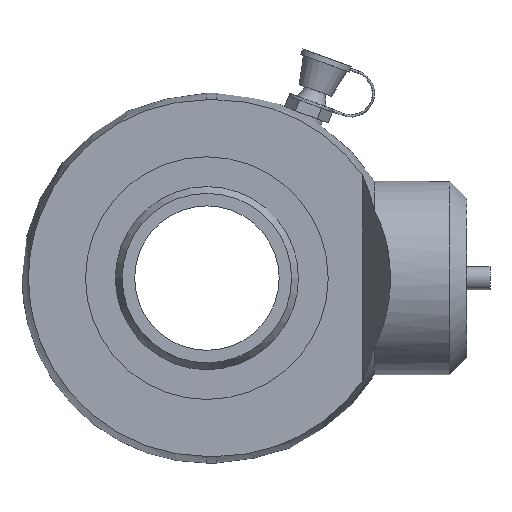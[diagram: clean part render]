
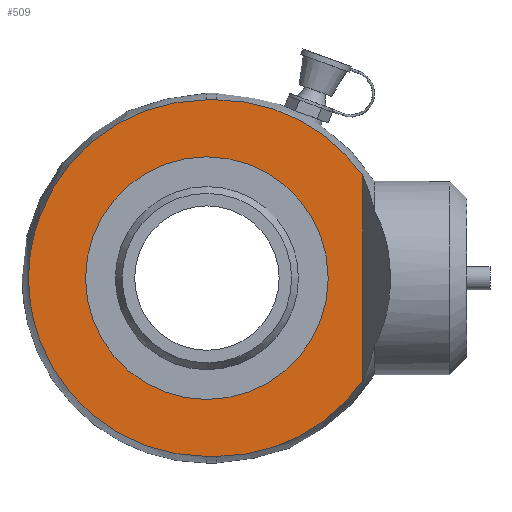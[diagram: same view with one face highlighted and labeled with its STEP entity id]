
A CAD part, front view. The second image highlights one B-rep face of the part: STEP entity #509.
In plain terms, the highlighted planar face has unit normal (0, -1, 0).
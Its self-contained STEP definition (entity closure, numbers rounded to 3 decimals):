
#509 = ADVANCED_FACE( '', ( #1353, #1354 ), #1355, .F. );
#1353 = FACE_OUTER_BOUND( '', #1688, .T. );
#1354 = FACE_BOUND( '', #1689, .T. );
#1355 = PLANE( '', #1690 );
#1688 = EDGE_LOOP( '', ( #1853, #1854, #1855, #1856, #1857, #1858 ) );
#1689 = EDGE_LOOP( '', ( #1859 ) );
#1690 = AXIS2_PLACEMENT_3D( '', #1860, #1861, #1862 );
#1853 = ORIENTED_EDGE( '', *, *, #2130, .F. );
#1854 = ORIENTED_EDGE( '', *, *, #2127, .F. );
#1855 = ORIENTED_EDGE( '', *, *, #2131, .T. );
#1856 = ORIENTED_EDGE( '', *, *, #2132, .T. );
#1857 = ORIENTED_EDGE( '', *, *, #2133, .T. );
#1858 = ORIENTED_EDGE( '', *, *, #2134, .F. );
#1859 = ORIENTED_EDGE( '', *, *, #2135, .F. );
#1860 = CARTESIAN_POINT( '', ( -19.321, -8.5, 295.735 ) );
#1861 = DIRECTION( '', ( 0., 1., 0. ) );
#1862 = DIRECTION( '', ( -1., 0., 0. ) );
#2127 = EDGE_CURVE( '', #2579, #2581, #2582, .T. );
#2130 = EDGE_CURVE( '', #2581, #2586, #2587, .F. );
#2131 = EDGE_CURVE( '', #2579, #2588, #2589, .F. );
#2132 = EDGE_CURVE( '', #2588, #2590, #2591, .T. );
#2133 = EDGE_CURVE( '', #2590, #2592, #2593, .F. );
#2134 = EDGE_CURVE( '', #2586, #2592, #2594, .T. );
#2135 = EDGE_CURVE( '', #2595, #2595, #2596, .F. );
#2579 = VERTEX_POINT( '', #2882 );
#2581 = VERTEX_POINT( '', #2884 );
#2582 = LINE( '', #2885, #2886 );
#2586 = VERTEX_POINT( '', #2890 );
#2587 = CIRCLE( '', #2891, 30.85 );
#2588 = VERTEX_POINT( '', #2892 );
#2589 = CIRCLE( '', #2893, 30.85 );
#2590 = VERTEX_POINT( '', #2894 );
#2591 = LINE( '', #2895, #2896 );
#2592 = VERTEX_POINT( '', #2897 );
#2593 = CIRCLE( '', #2898, 30.85 );
#2594 = LINE( '', #2899, #2900 );
#2595 = VERTEX_POINT( '', #2901 );
#2596 = CIRCLE( '', #2902, 21. );
#2882 = CARTESIAN_POINT( '', ( -19.321, -8.5, 17.702 ) );
#2884 = CARTESIAN_POINT( '', ( -19.321, -8.5, -17.702 ) );
#2885 = CARTESIAN_POINT( '', ( -19.321, -8.5, 295.735 ) );
#2886 = VECTOR( '', #2950, 1000. );
#2890 = CARTESIAN_POINT( '', ( -44.587, -8.5, -30.85 ) );
#2891 = AXIS2_PLACEMENT_3D( '', #2957, #2958, #2959 );
#2892 = CARTESIAN_POINT( '', ( -44.587, -8.5, 30.85 ) );
#2893 = AXIS2_PLACEMENT_3D( '', #2960, #2961, #2962 );
#2894 = CARTESIAN_POINT( '', ( -46.321, -8.5, 30.85 ) );
#2895 = CARTESIAN_POINT( '', ( -78.321, -8.5, 30.85 ) );
#2896 = VECTOR( '', #2963, 1000. );
#2897 = CARTESIAN_POINT( '', ( -46.321, -8.5, -30.85 ) );
#2898 = AXIS2_PLACEMENT_3D( '', #2964, #2965, #2966 );
#2899 = CARTESIAN_POINT( '', ( -78.321, -8.5, -30.85 ) );
#2900 = VECTOR( '', #2967, 1000. );
#2901 = CARTESIAN_POINT( '', ( -67.321, -8.5, 0. ) );
#2902 = AXIS2_PLACEMENT_3D( '', #2968, #2969, #2970 );
#2950 = DIRECTION( '', ( 0., 0., -1. ) );
#2957 = CARTESIAN_POINT( '', ( -44.587, -8.5, 0. ) );
#2958 = DIRECTION( '', ( 0., -1., 0. ) );
#2959 = DIRECTION( '', ( 1., 0., 0. ) );
#2960 = CARTESIAN_POINT( '', ( -44.587, -8.5, 0. ) );
#2961 = DIRECTION( '', ( 0., 1., 0. ) );
#2962 = DIRECTION( '', ( -1., 0., 0. ) );
#2963 = DIRECTION( '', ( -1., 0., 0. ) );
#2964 = CARTESIAN_POINT( '', ( -46.321, -8.5, 0. ) );
#2965 = DIRECTION( '', ( 0., 1., 0. ) );
#2966 = DIRECTION( '', ( -1., 0., 0. ) );
#2967 = DIRECTION( '', ( -1., 0., 0. ) );
#2968 = CARTESIAN_POINT( '', ( -46.321, -8.5, 0. ) );
#2969 = DIRECTION( '', ( 0., 1., 0. ) );
#2970 = DIRECTION( '', ( -1., 0., 0. ) );
